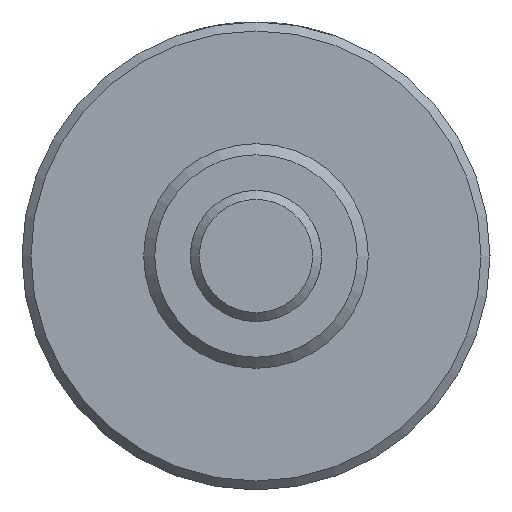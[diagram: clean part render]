
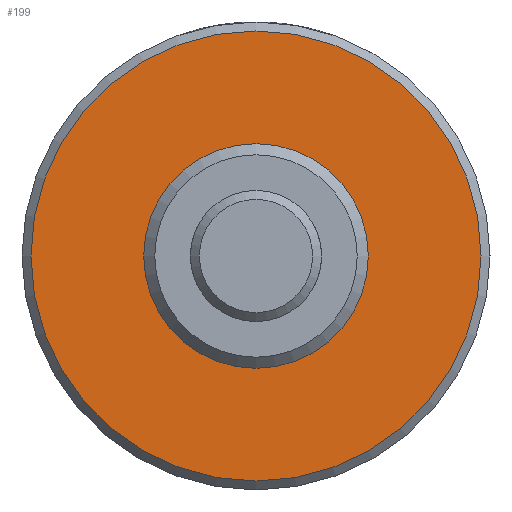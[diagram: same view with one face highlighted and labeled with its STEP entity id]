
A CAD part, left-side view. The second image highlights one B-rep face of the part: STEP entity #199.
In plain terms, the highlighted planar face has unit normal (-1, 0, 0).
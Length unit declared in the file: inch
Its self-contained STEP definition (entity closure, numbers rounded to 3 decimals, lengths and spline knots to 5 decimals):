
#199 = ADVANCED_FACE( '', ( #411, #412 ), #413, .F. );
#411 = FACE_OUTER_BOUND( '', #631, .T. );
#412 = FACE_BOUND( '', #632, .T. );
#413 = PLANE( '', #633 );
#631 = EDGE_LOOP( '', ( #941 ) );
#632 = EDGE_LOOP( '', ( #942 ) );
#633 = AXIS2_PLACEMENT_3D( '', #943, #944, #945 );
#941 = ORIENTED_EDGE( '', *, *, #1060, .F. );
#942 = ORIENTED_EDGE( '', *, *, #1105, .T. );
#943 = CARTESIAN_POINT( '', ( 0.625, 0.375, 0. ) );
#944 = DIRECTION( '', ( 1., 0., 0. ) );
#945 = DIRECTION( '', ( 0., 0., -1. ) );
#1060 = EDGE_CURVE( '', #1188, #1188, #1189, .T. );
#1105 = EDGE_CURVE( '', #1261, #1261, #1262, .T. );
#1188 = VERTEX_POINT( '', #1374 );
#1189 = CIRCLE( '', #1375, 0.7515 );
#1261 = VERTEX_POINT( '', #1607 );
#1262 = CIRCLE( '', #1608, 0.375 );
#1374 = CARTESIAN_POINT( '', ( 0.625, 0., -0.7515 ) );
#1375 = AXIS2_PLACEMENT_3D( '', #1733, #1734, #1735 );
#1607 = CARTESIAN_POINT( '', ( 0.625, 0., -0.375 ) );
#1608 = AXIS2_PLACEMENT_3D( '', #1799, #1800, #1801 );
#1733 = CARTESIAN_POINT( '', ( 0.625, 0., 0. ) );
#1734 = DIRECTION( '', ( 1., 0., 0. ) );
#1735 = DIRECTION( '', ( 0., 0., -1. ) );
#1799 = CARTESIAN_POINT( '', ( 0.625, 0., 0. ) );
#1800 = DIRECTION( '', ( 1., 0., 0. ) );
#1801 = DIRECTION( '', ( 0., 0., -1. ) );
